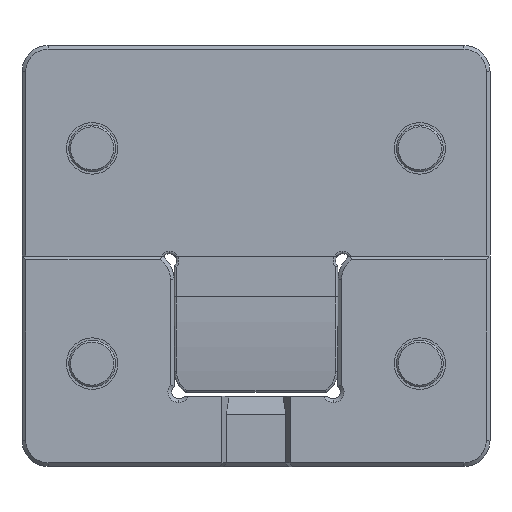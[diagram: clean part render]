
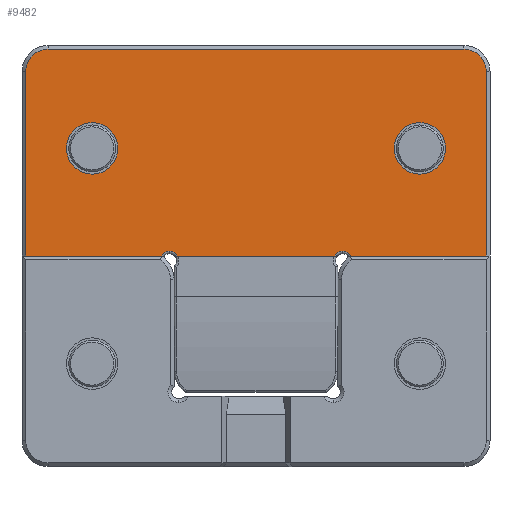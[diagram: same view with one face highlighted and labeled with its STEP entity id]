
A CAD part, front view. The second image highlights one B-rep face of the part: STEP entity #9482.
In plain terms, the highlighted planar face has unit normal (0, -1, 0).
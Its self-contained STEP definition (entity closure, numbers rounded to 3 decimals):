
#475 = ORIENTED_EDGE ( 'NONE', *, *, #8384, .T. ) ;
#476 = ORIENTED_EDGE ( 'NONE', *, *, #8385, .T. ) ;
#477 = ORIENTED_EDGE ( 'NONE', *, *, #8377, .T. ) ;
#478 = ORIENTED_EDGE ( 'NONE', *, *, #8362, .F. ) ;
#479 = ORIENTED_EDGE ( 'NONE', *, *, #8381, .T. ) ;
#480 = ORIENTED_EDGE ( 'NONE', *, *, #8268, .T. ) ;
#481 = ORIENTED_EDGE ( 'NONE', *, *, #8382, .T. ) ;
#482 = ORIENTED_EDGE ( 'NONE', *, *, #8363, .T. ) ;
#483 = ORIENTED_EDGE ( 'NONE', *, *, #8264, .T. ) ;
#484 = ORIENTED_EDGE ( 'NONE', *, *, #8326, .F. ) ;
#485 = ORIENTED_EDGE ( 'NONE', *, *, #8368, .T. ) ;
#486 = ORIENTED_EDGE ( 'NONE', *, *, #8378, .T. ) ;
#487 = ORIENTED_EDGE ( 'NONE', *, *, #8262, .T. ) ;
#488 = ORIENTED_EDGE ( 'NONE', *, *, #8380, .T. ) ;
#489 = ORIENTED_EDGE ( 'NONE', *, *, #8254, .T. ) ;
#490 = ORIENTED_EDGE ( 'NONE', *, *, #8379, .T. ) ;
#1163 = AXIS2_PLACEMENT_3D ( 'NONE', #5611, #5613, #5614 ) ;
#1166 = AXIS2_PLACEMENT_3D ( 'NONE', #5638, #5564, #5565 ) ;
#1167 = AXIS2_PLACEMENT_3D ( 'NONE', #5631, #5633, #5634 ) ;
#1169 = AXIS2_PLACEMENT_3D ( 'NONE', #5636, #5578, #5579 ) ;
#1228 = DIRECTION ( 'NONE',  ( 0., 0., 1. ) ) ;
#1229 = CARTESIAN_POINT ( 'NONE',  ( 18.507, -19., -46.01 ) ) ;
#1230 = DIRECTION ( 'NONE',  ( 0., 1., 0. ) ) ;
#1231 = DIRECTION ( 'NONE',  ( 0., 0., 1. ) ) ;
#1233 = DIRECTION ( 'NONE',  ( 0., 1., 0. ) ) ;
#1234 = DIRECTION ( 'NONE',  ( 0., 0., 1. ) ) ;
#1235 = CARTESIAN_POINT ( 'NONE',  ( 44.4, -19., -5.6 ) ) ;
#1236 = DIRECTION ( 'NONE',  ( 0., 1., 0. ) ) ;
#1237 = DIRECTION ( 'NONE',  ( 0., 0., 1. ) ) ;
#1238 = CARTESIAN_POINT ( 'NONE',  ( -50., -19., -45. ) ) ;
#1239 = DIRECTION ( 'NONE',  ( 1., 0., 0. ) ) ;
#1243 = CARTESIAN_POINT ( 'NONE',  ( -44.4, -19., -0.8 ) ) ;
#1244 = DIRECTION ( 'NONE',  ( -1., 0., 0. ) ) ;
#1246 = DIRECTION ( 'NONE',  ( 0., -1., 0. ) ) ;
#1247 = DIRECTION ( 'NONE',  ( 0., 0., 1. ) ) ;
#2476 = CARTESIAN_POINT ( 'NONE',  ( -49.2, -19., -45. ) ) ;
#2477 = DIRECTION ( 'NONE',  ( 0., 0., -1. ) ) ;
#2480 = CARTESIAN_POINT ( 'NONE',  ( 35., -19., -22. ) ) ;
#2483 = CARTESIAN_POINT ( 'NONE',  ( -44.4, -19., -5.6 ) ) ;
#2495 = CARTESIAN_POINT ( 'NONE',  ( 49.2, -19., -5.6 ) ) ;
#2496 = DIRECTION ( 'NONE',  ( 0., 0., 1. ) ) ;
#2497 = CARTESIAN_POINT ( 'NONE',  ( -35., -19., -22. ) ) ;
#2600 = DIRECTION ( 'NONE',  ( 0., -1., 0. ) ) ;
#2601 = CARTESIAN_POINT ( 'NONE',  ( 17.497, -19., -45. ) ) ;
#2602 = DIRECTION ( 'NONE',  ( -1., 0., 0. ) ) ;
#2603 = CARTESIAN_POINT ( 'NONE',  ( -18.507, -19., -46.01 ) ) ;
#2605 = DIRECTION ( 'NONE',  ( 0., 1., 0. ) ) ;
#2606 = DIRECTION ( 'NONE',  ( 0., 0., 1. ) ) ;
#2782 = LINE ( 'NONE', #4146, #2783 ) ;
#2783 = VECTOR ( 'NONE', #4147, 1000. ) ;
#2813 = VECTOR ( 'NONE', #2602, 1000. ) ;
#2815 = LINE ( 'NONE', #2601, #2813 ) ;
#2822 = LINE ( 'NONE', #1238, #2857 ) ;
#2827 = VECTOR ( 'NONE', #2477, 1000. ) ;
#2831 = CIRCLE ( 'NONE', #3257, 2.02 ) ;
#2835 = LINE ( 'NONE', #2476, #2827 ) ;
#2851 = LINE ( 'NONE', #2495, #2852 ) ;
#2852 = VECTOR ( 'NONE', #2496, 1000. ) ;
#2853 = LINE ( 'NONE', #1243, #2859 ) ;
#2854 = CIRCLE ( 'NONE', #3258, 4.8 ) ;
#2856 = CIRCLE ( 'NONE', #3260, 5.5 ) ;
#2857 = VECTOR ( 'NONE', #1239, 1000. ) ;
#2858 = CIRCLE ( 'NONE', #3259, 5.5 ) ;
#2859 = VECTOR ( 'NONE', #1244, 1000. ) ;
#2860 = CIRCLE ( 'NONE', #3261, 2.02 ) ;
#2864 = CIRCLE ( 'NONE', #3264, 4.8 ) ;
#3257 = AXIS2_PLACEMENT_3D ( 'NONE', #2603, #2605, #2606 ) ;
#3258 = AXIS2_PLACEMENT_3D ( 'NONE', #2483, #2600, #1228 ) ;
#3259 = AXIS2_PLACEMENT_3D ( 'NONE', #2497, #1233, #1234 ) ;
#3260 = AXIS2_PLACEMENT_3D ( 'NONE', #2480, #1230, #1231 ) ;
#3261 = AXIS2_PLACEMENT_3D ( 'NONE', #1229, #1236, #1237 ) ;
#3264 = AXIS2_PLACEMENT_3D ( 'NONE', #1235, #1246, #1247 ) ;
#3633 = AXIS2_PLACEMENT_3D ( 'NONE', #10555, #10556, #10557 ) ;
#4146 = CARTESIAN_POINT ( 'NONE',  ( -17.497, -19., -45. ) ) ;
#4147 = DIRECTION ( 'NONE',  ( -1., 0., 0. ) ) ;
#5564 = DIRECTION ( 'NONE',  ( 0., 1., 0. ) ) ;
#5565 = DIRECTION ( 'NONE',  ( 0., 0., 1. ) ) ;
#5578 = DIRECTION ( 'NONE',  ( 0., 1., 0. ) ) ;
#5579 = DIRECTION ( 'NONE',  ( 0., 0., 1. ) ) ;
#5611 = CARTESIAN_POINT ( 'NONE',  ( 35., -19., -22. ) ) ;
#5613 = DIRECTION ( 'NONE',  ( 0., 1., 0. ) ) ;
#5614 = DIRECTION ( 'NONE',  ( 0., 0., 1. ) ) ;
#5631 = CARTESIAN_POINT ( 'NONE',  ( -35., -19., -22. ) ) ;
#5633 = DIRECTION ( 'NONE',  ( 0., 1., 0. ) ) ;
#5634 = DIRECTION ( 'NONE',  ( 0., 0., 1. ) ) ;
#5636 = CARTESIAN_POINT ( 'NONE',  ( 18.507, -19., -46.01 ) ) ;
#5638 = CARTESIAN_POINT ( 'NONE',  ( -18.507, -19., -46.01 ) ) ;
#6219 = CARTESIAN_POINT ( 'NONE',  ( -18.507, -19., -43.99 ) ) ;
#6220 = CARTESIAN_POINT ( 'NONE',  ( -20.256, -19., -45. ) ) ;
#6223 = CARTESIAN_POINT ( 'NONE',  ( 18.507, -19., -43.99 ) ) ;
#6224 = CARTESIAN_POINT ( 'NONE',  ( 16.758, -19., -45. ) ) ;
#6238 = CARTESIAN_POINT ( 'NONE',  ( -49.2, -19., -45. ) ) ;
#6251 = CARTESIAN_POINT ( 'NONE',  ( 49.2, -19., -45. ) ) ;
#6252 = CARTESIAN_POINT ( 'NONE',  ( 20.256, -19., -45. ) ) ;
#6260 = CARTESIAN_POINT ( 'NONE',  ( -44.4, -19., -0.8 ) ) ;
#6261 = CARTESIAN_POINT ( 'NONE',  ( -49.2, -19., -5.6 ) ) ;
#6738 = CIRCLE ( 'NONE', #1163, 5.5 ) ;
#6750 = CIRCLE ( 'NONE', #1167, 5.5 ) ;
#6754 = CIRCLE ( 'NONE', #1166, 2.02 ) ;
#6761 = CIRCLE ( 'NONE', #1169, 2.02 ) ;
#7196 = FACE_BOUND ( 'NONE', #7756, .T. ) ;
#7201 = FACE_BOUND ( 'NONE', #7759, .T. ) ;
#7205 = FACE_OUTER_BOUND ( 'NONE', #7755, .T. ) ;
#7755 = EDGE_LOOP ( 'NONE', ( #486, #485, #484, #483, #482, #481, #480, #479, #478, #477, #476, #475 ) ) ;
#7756 = EDGE_LOOP ( 'NONE', ( #488, #487 ) ) ;
#7759 = EDGE_LOOP ( 'NONE', ( #490, #489 ) ) ;
#8254 = EDGE_CURVE ( 'NONE', #11386, #11387, #6738, .T. ) ;
#8262 = EDGE_CURVE ( 'NONE', #11394, #11395, #6750, .T. ) ;
#8264 = EDGE_CURVE ( 'NONE', #11309, #11308, #6754, .T. ) ;
#8268 = EDGE_CURVE ( 'NONE', #11313, #11312, #6761, .T. ) ;
#8326 = EDGE_CURVE ( 'NONE', #11309, #11328, #2782, .T. ) ;
#8362 = EDGE_CURVE ( 'NONE', #11341, #11342, #2815, .T. ) ;
#8363 = EDGE_CURVE ( 'NONE', #11308, #11073, #2831, .T. ) ;
#8368 = EDGE_CURVE ( 'NONE', #11351, #11328, #2835, .T. ) ;
#8377 = EDGE_CURVE ( 'NONE', #11341, #11074, #2851, .T. ) ;
#8378 = EDGE_CURVE ( 'NONE', #11350, #11351, #2854, .T. ) ;
#8379 = EDGE_CURVE ( 'NONE', #11387, #11386, #2856, .T. ) ;
#8380 = EDGE_CURVE ( 'NONE', #11395, #11394, #2858, .T. ) ;
#8381 = EDGE_CURVE ( 'NONE', #11312, #11342, #2860, .T. ) ;
#8382 = EDGE_CURVE ( 'NONE', #11073, #11313, #2822, .T. ) ;
#8384 = EDGE_CURVE ( 'NONE', #11075, #11350, #2853, .T. ) ;
#8385 = EDGE_CURVE ( 'NONE', #11074, #11075, #2864, .T. ) ;
#9482 = ADVANCED_FACE ( 'NONE', ( #7201, #7196, #7205 ), #10554, .F. ) ;
#10554 = PLANE ( 'NONE',  #3633 ) ;
#10555 = CARTESIAN_POINT ( 'NONE',  ( -50., -19., 0. ) ) ;
#10556 = DIRECTION ( 'NONE',  ( 0., 1., 0. ) ) ;
#10557 = DIRECTION ( 'NONE',  ( 0., 0., 1. ) ) ;
#11073 = VERTEX_POINT ( 'NONE', #11192 ) ;
#11074 = VERTEX_POINT ( 'NONE', #11174 ) ;
#11075 = VERTEX_POINT ( 'NONE', #11193 ) ;
#11174 = CARTESIAN_POINT ( 'NONE',  ( 49.2, -19., -5.6 ) ) ;
#11192 = CARTESIAN_POINT ( 'NONE',  ( -16.758, -19., -45. ) ) ;
#11193 = CARTESIAN_POINT ( 'NONE',  ( 44.4, -19., -0.8 ) ) ;
#11308 = VERTEX_POINT ( 'NONE', #6219 ) ;
#11309 = VERTEX_POINT ( 'NONE', #6220 ) ;
#11312 = VERTEX_POINT ( 'NONE', #6223 ) ;
#11313 = VERTEX_POINT ( 'NONE', #6224 ) ;
#11328 = VERTEX_POINT ( 'NONE', #6238 ) ;
#11341 = VERTEX_POINT ( 'NONE', #6251 ) ;
#11342 = VERTEX_POINT ( 'NONE', #6252 ) ;
#11350 = VERTEX_POINT ( 'NONE', #6260 ) ;
#11351 = VERTEX_POINT ( 'NONE', #6261 ) ;
#11386 = VERTEX_POINT ( 'NONE', #11886 ) ;
#11387 = VERTEX_POINT ( 'NONE', #11887 ) ;
#11394 = VERTEX_POINT ( 'NONE', #11894 ) ;
#11395 = VERTEX_POINT ( 'NONE', #11895 ) ;
#11886 = CARTESIAN_POINT ( 'NONE',  ( 35., -19., -27.5 ) ) ;
#11887 = CARTESIAN_POINT ( 'NONE',  ( 35., -19., -16.5 ) ) ;
#11894 = CARTESIAN_POINT ( 'NONE',  ( -35., -19., -27.5 ) ) ;
#11895 = CARTESIAN_POINT ( 'NONE',  ( -35., -19., -16.5 ) ) ;
